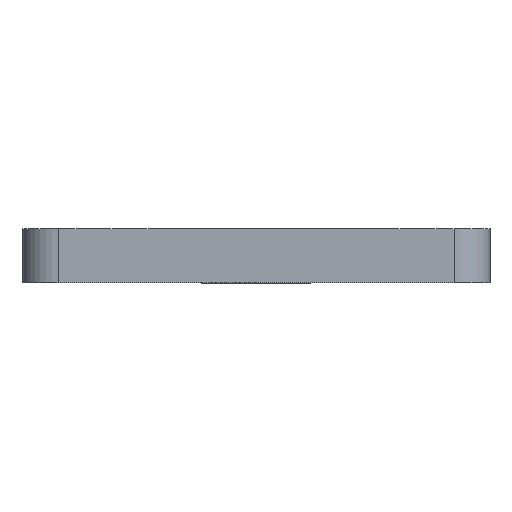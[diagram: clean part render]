
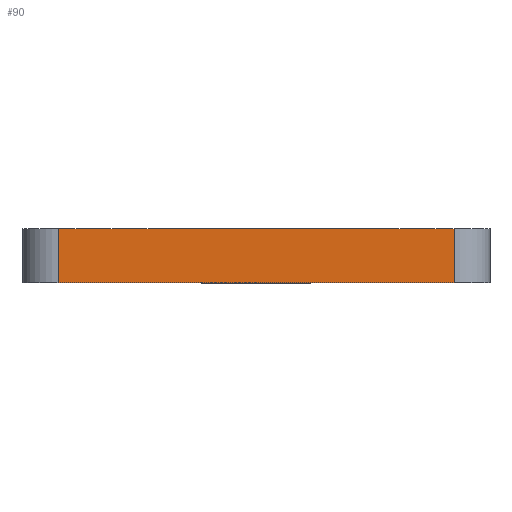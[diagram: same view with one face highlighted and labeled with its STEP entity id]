
A CAD part, front view. The second image highlights one B-rep face of the part: STEP entity #90.
In plain terms, the highlighted planar face has unit normal (0, -1, 0).
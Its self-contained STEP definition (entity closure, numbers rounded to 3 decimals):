
#90=ADVANCED_FACE('',(#164),#720,.T.);
#164=FACE_OUTER_BOUND('',#278,.F.);
#278=EDGE_LOOP('',(#433,#434,#435,#436));
#433=ORIENTED_EDGE('',*,*,#1012,.F.);
#434=ORIENTED_EDGE('',*,*,#1009,.F.);
#435=ORIENTED_EDGE('',*,*,#1016,.T.);
#436=ORIENTED_EDGE('',*,*,#998,.T.);
#720=PLANE('',#1408);
#756=LINE('',#2084,#852);
#761=LINE('',#2095,#857);
#764=LINE('',#2098,#860);
#768=LINE('',#2102,#864);
#852=VECTOR('',#1599,1.5);
#857=VECTOR('',#1616,1.5);
#860=VECTOR('',#1619,11.);
#864=VECTOR('',#1623,11.);
#998=EDGE_CURVE('',#1250,#1247,#756,.T.);
#1009=EDGE_CURVE('',#1237,#1236,#761,.T.);
#1012=EDGE_CURVE('',#1236,#1247,#764,.T.);
#1016=EDGE_CURVE('',#1237,#1250,#768,.T.);
#1236=VERTEX_POINT('',#1938);
#1237=VERTEX_POINT('',#1939);
#1247=VERTEX_POINT('',#1949);
#1250=VERTEX_POINT('',#1952);
#1408=AXIS2_PLACEMENT_3D('',#2204,#1760,#1761);
#1599=DIRECTION('',(0.,0.,1.));
#1616=DIRECTION('',(0.,0.,1.));
#1619=DIRECTION('',(-1.,0.,0.));
#1623=DIRECTION('',(-1.,0.,0.));
#1760=DIRECTION('',(0.,-1.,0.));
#1761=DIRECTION('',(-1.,0.,0.));
#1938=CARTESIAN_POINT('',(289.875,387.752,321.874));
#1939=CARTESIAN_POINT('',(289.875,387.752,320.374));
#1949=CARTESIAN_POINT('',(278.875,387.752,321.874));
#1952=CARTESIAN_POINT('',(278.875,387.752,320.374));
#2084=CARTESIAN_POINT('',(278.875,387.752,320.374));
#2095=CARTESIAN_POINT('',(289.875,387.752,320.374));
#2098=CARTESIAN_POINT('',(289.875,387.752,321.874));
#2102=CARTESIAN_POINT('',(289.875,387.752,320.374));
#2204=CARTESIAN_POINT('',(291.005,387.752,322.004));
